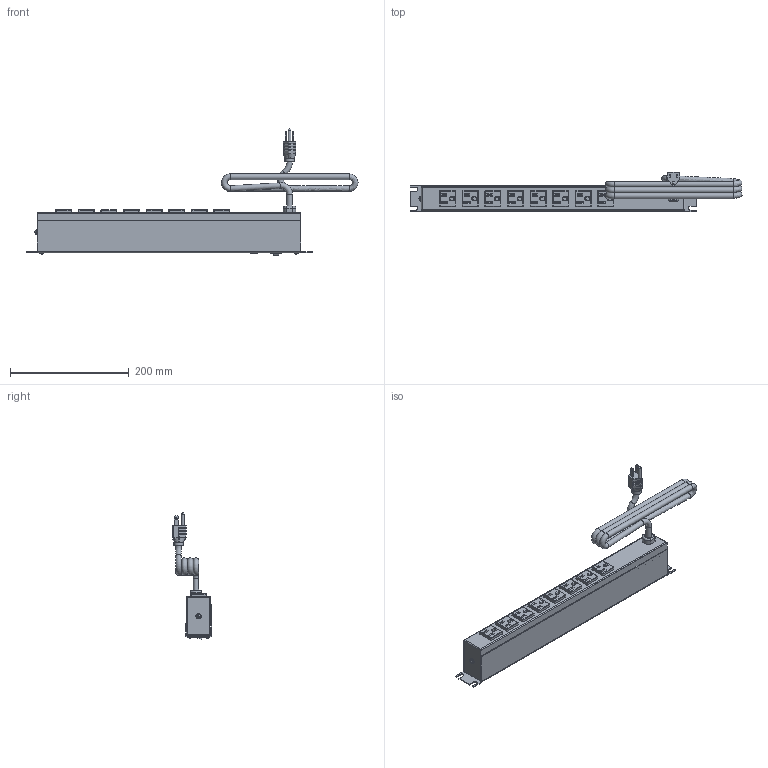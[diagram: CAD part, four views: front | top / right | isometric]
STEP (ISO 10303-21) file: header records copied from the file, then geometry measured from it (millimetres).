
FILE_DESCRIPTION((''),'2;1');
FILE_NAME('E:\Dutton\Manufacturing\drawings\Updated 2009\POWER BARS\1583 Series\STEP''s\1583T8A1BK.stp','2010-01-07T08:42:15',('tfoster'),(''),'Autodesk Inventor 2010','Autodesk Inventor 2010','');
FILE_SCHEMA(('AUTOMOTIVE_DESIGN { 1 0 10303 214 1 1 1 1 }'));
Products named in the file (10): 1583T8A1BK; 1583 Front plate; 1583H8 Back Plate; #6 - 0.375 Type A screw; Reset Switch; Cored 2; Receptacle; toothwasher; round head 1-way 8-32 x 0.5 screw; Pilot light
Assembly tree (19 placements, depth 2):
  1583T8A1BK
    1583 Front plate
    1583H8 Back Plate
    #6 - 0.375 Type A screw  x4
    Reset Switch
    Cored 2
    Receptacle  x8
    toothwasher
    round head 1-way 8-32 x 0.5 screw
    Pilot light
Bounding box: 560.01 x 66.07 x 213.78 mm (x, y, z)
Volume: 376716.2 mm3; surface area: 308004.9 mm2
Topology: 19 solids, 19 shells, 1015 faces, 2916 edges, 1938 vertices
Faces by surface type: plane 673, cylinder 183, bspline 81, sphere 38, cone 25, torus 15
Full cylindrical faces by diameter (mm): 1.803 x3, 1.905 x2, 2.997 x4, 3 x2, 4.3 x1, 4.775 x1, 4.801 x1, 5.563 x4, 7.849 x1, 9.5 x5, 11 x1, 15.621 x1
Entity records: 22767 total; most frequent: CARTESIAN_POINT 7759, ORIENTED_EDGE 3252, DIRECTION 2709, EDGE_CURVE 1626, VERTEX_POINT 1141, VECTOR 1063, LINE 1063, AXIS2_PLACEMENT_3D 823
